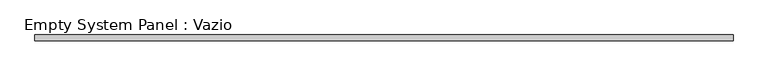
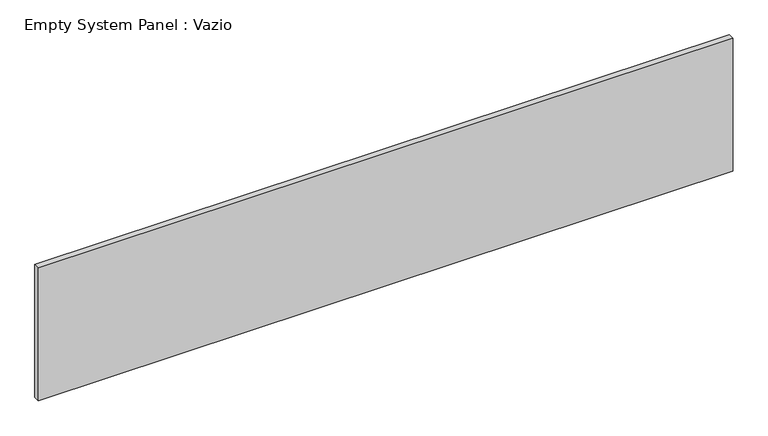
"""IFC4 building model written with IfcOpenShell, lengths in millimetres: plate geometry, Empty System Panel : Vazio."""

from ifc_helpers import new_model, si_unit, origin, origin_with_axes, place, context, project, spatial, polyline, outline, extrude, source, transform, mapped, element, save


def empty_system_panel_vazio_2e425c68(model_context):
    return source(origin(), model_context, "Body", "SweptSolid", [
        extrude(outline(polyline([(5749.8086267, 50.0), (-5749.8086267, 50.0), (-5749.8086267, 150.0), (5749.8086267, 150.0), (5749.8086267, 50.0)])), origin_with_axes(), (0.0, 0.0, 1.0), 2326.7734635),
    ])


if __name__ == "__main__":
    model = new_model("IFC4")
    model_context = context("Model", 3, world=origin())
    ifc_project = project(units=[si_unit("LENGTHUNIT", "METRE", prefix="MILLI")], contexts=[model_context])
    site = spatial("IfcSite", under=ifc_project)
    building = spatial("IfcBuilding", under=site)
    placement = place(None, origin())
    empty_system_panel_vazio_shape = empty_system_panel_vazio_2e425c68(model_context)
    element("IfcPlate", 1, ObjectType="Empty System Panel : Vazio", at=placement, inside=building, context=model_context, shape_type="MappedRepresentation", body=[
        mapped(empty_system_panel_vazio_shape, transform((0.0, 0.0, 0.0), x_axis=(1.0, 0.0, 0.0), y_axis=(0.0, 1.0, 0.0), z_axis=(0.0, 0.0, 1.0))),
    ])
    save(model, "model.ifc")
